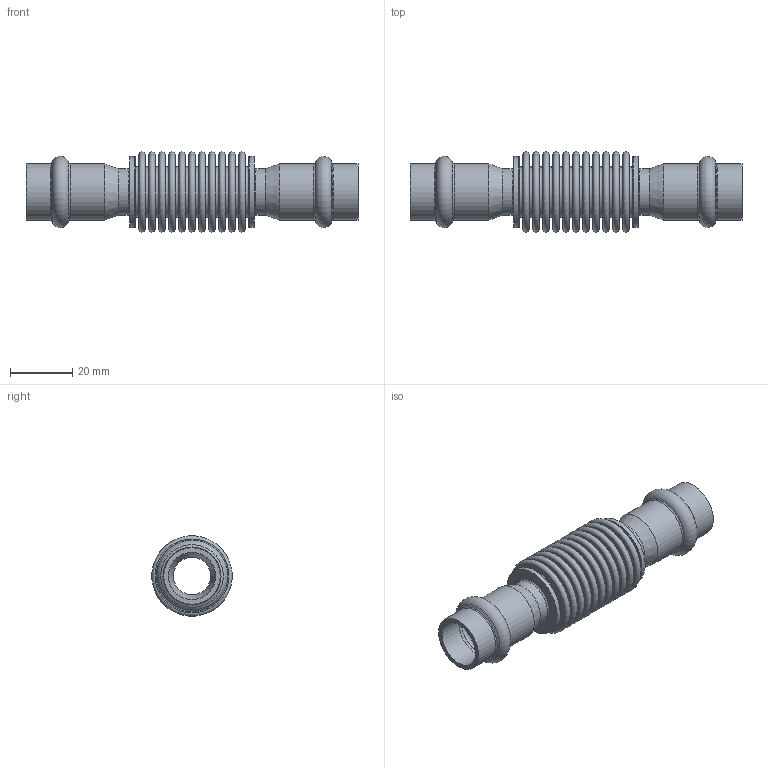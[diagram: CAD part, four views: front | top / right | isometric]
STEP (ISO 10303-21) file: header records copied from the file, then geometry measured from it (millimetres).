
FILE_DESCRIPTION((''),'2;1');
FILE_NAME('G:\Nirosan-Schmiedefeld\Technics\CAD\001 Serie 9.000\015\69872L15H(0).stp','2018-09-11T15:33:29',('herberg'),(''),'Autodesk Inventor 2009','Autodesk Inventor 2009','');
FILE_SCHEMA(('AUTOMOTIVE_DESIGN { 1 0 10303 214 1 1 1 1 }'));
Length unit declared in the file: millimetre
Products named in the file (3): 69872L15H(0); 69HMB15p(0); 69488L15p(0)
Assembly tree (3 placements, depth 2):
  69872L15H(0)
    69HMB15p(0)  x2
    69488L15p(0)
Bounding box: 106.6 x 25.7 x 25.7 mm (x, y, z)
Volume: 8641.7 mm3; surface area: 26579.5 mm2
Topology: 3 solids, 3 shells, 140 faces, 232 edges, 146 vertices
Faces by surface type: plane 54, bspline 36, torus 26, cylinder 16, cone 8
Full cylindrical faces by diameter (mm): 12 x2, 15 x2, 15.15 x4, 18.15 x4, 22.8 x4
Entity records: 4533 total; most frequent: CARTESIAN_POINT 2544, DIRECTION 424, ORIENTED_EDGE 236, EDGE_LOOP 236, AXIS2_PLACEMENT_3D 212, VERTEX_POINT 118, CIRCLE 118, EDGE_CURVE 118
